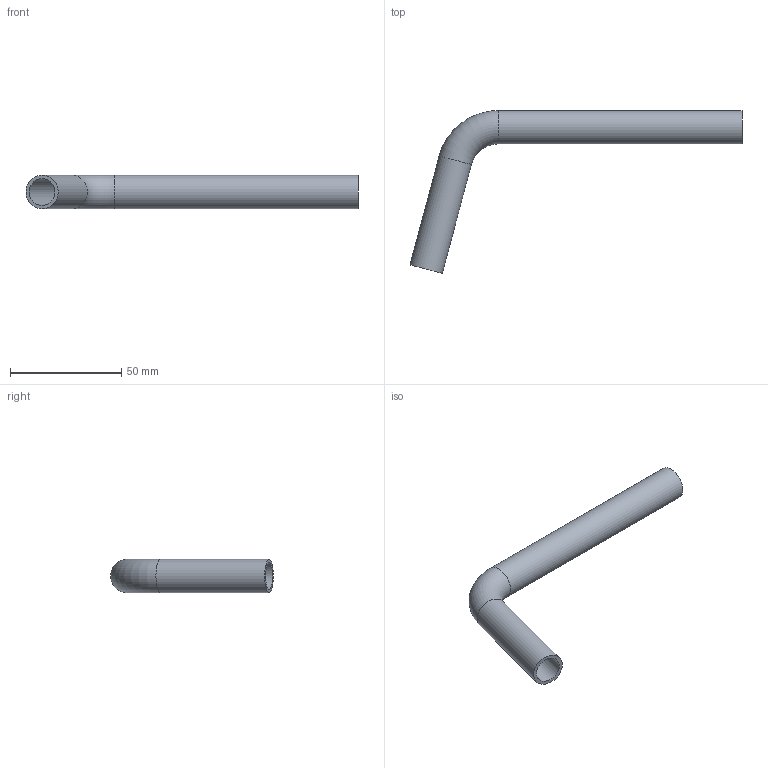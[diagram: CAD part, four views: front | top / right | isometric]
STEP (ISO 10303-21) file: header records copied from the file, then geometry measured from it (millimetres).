
FILE_DESCRIPTION((''),'2;1');
FILE_NAME('G:\Nirosan-Schmiedefeld\Technics\CAD\Bauteile VA\015\6904515(1).stp','2011-10-26T11:55:17',('herberg'),(''),'Autodesk Inventor 2009','Autodesk Inventor 2009','');
FILE_SCHEMA(('AUTOMOTIVE_DESIGN { 1 0 10303 214 1 1 1 1 }'));
Length unit declared in the file: millimetre
Products named in the file (1): 6904515(1)
Bounding box: 149.33 x 73.19 x 15 mm (x, y, z)
Volume: 11863.8 mm3; surface area: 15945.6 mm2
Topology: 1 solids, 1 shells, 8 faces, 14 edges, 8 vertices
Faces by surface type: cylinder 4, torus 2, plane 2
Full cylindrical faces by diameter (mm): 12 x2, 15 x2
Entity records: 194 total; most frequent: DIRECTION 34, CARTESIAN_POINT 25, AXIS2_PLACEMENT_3D 17, ORIENTED_EDGE 16, EDGE_LOOP 16, VERTEX_POINT 8, CIRCLE 8, EDGE_CURVE 8
